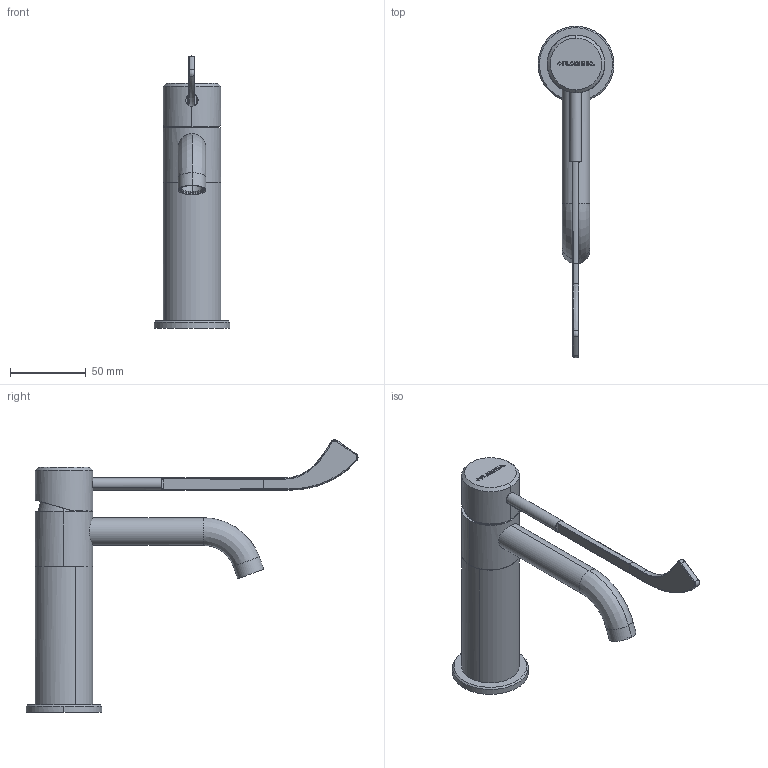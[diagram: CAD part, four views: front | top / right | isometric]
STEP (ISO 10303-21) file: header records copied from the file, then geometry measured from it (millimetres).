
FILE_DESCRIPTION(/* description */ (''),/* implementation_level */ '2;1');
FILE_NAME(/* name */ 'ST3050DACC',/* time_stamp */ '2024-02-26T10:34:32+01:00',/* author */ (''),/* organization */ (''),/* preprocessor_version */ 'ST-DEVELOPER v16.5',/* originating_system */ 'Rhino 7.36',/* authorisation */ '');
FILE_SCHEMA (('CONFIG_CONTROL_DESIGN'));
Length unit declared in the file: millimetre
Products named in the file (1): Document
Bounding box: 50 x 218.65 x 179.5 mm (x, y, z)
Volume: 40077.4 mm3; surface area: 39595.7 mm2
Topology: 12 solids, 16 shells, 288 faces, 716 edges, 463 vertices
Faces by surface type: plane 215, bspline 40, cylinder 33
Entity records: 8926 total; most frequent: CARTESIAN_POINT 4018, ORIENTED_EDGE 1394, EDGE_CURVE 712, B_SPLINE_CURVE_WITH_KNOTS 562, VERTEX_POINT 463, EDGE_LOOP 309, ADVANCED_FACE 288, FACE_OUTER_BOUND 288
